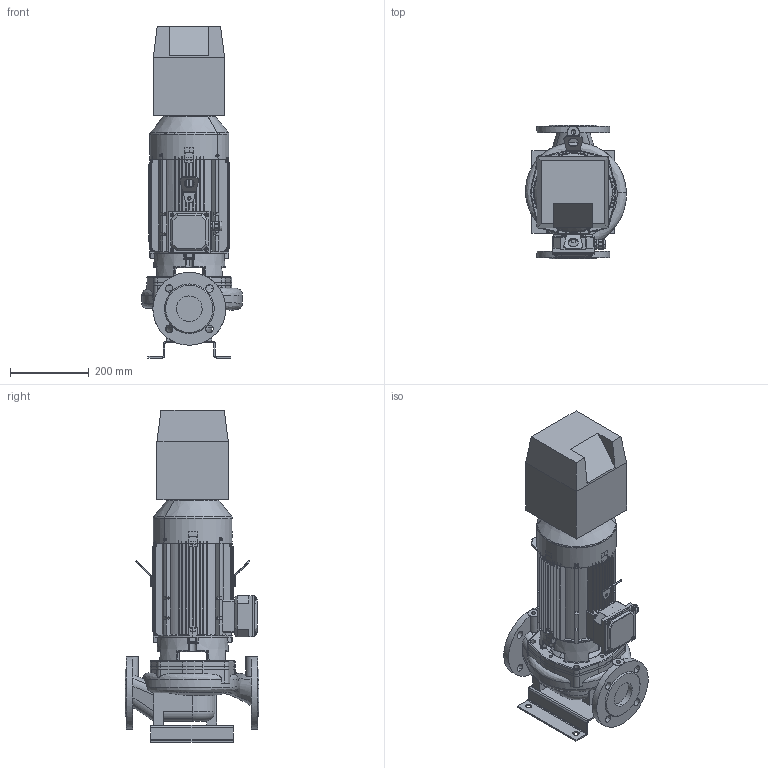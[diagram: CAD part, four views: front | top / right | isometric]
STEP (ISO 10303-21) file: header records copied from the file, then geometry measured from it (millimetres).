
FILE_DESCRIPTION(('STEP AP214'),'1');
FILE_NAME('export.stp','2018-08-08T13:30:54',(' '),(' '),'Spatial InterOp 3D',' ',' ');
FILE_SCHEMA(('AUTOMOTIVE_DESIGN { 1 0 10303 214 1 1 1 1 }'));
Length unit declared in the file: millimetre
Products named in the file (23): W_L65A4770_withou; V_TLL65AB80A1102; V_PPL65AB; V_JALKA35973; W_L65A4NC300KP; 160027; 160005; V_MKP100-2_F19; 160141; 160137; 160138; 160139; 160140; Koura_Ale_M5; Plug_Blind_M20; Sealing_Plug_M20; DIN_7985-M5X8; DIN_7985-M5X12; 160060___; 160059___; 160136; 160134; NC_Size1
Assembly tree (26 placements, depth 4):
  W_L65A4NC300KP
    W_L65A4770_withou
      V_TLL65AB80A1102
      V_PPL65AB
      V_JALKA35973
    V_MKP100-2_F19
      160027
        160005
      160141
        160137
        160138
        160139
        160140
        Koura_Ale_M5
        Plug_Blind_M20
        Sealing_Plug_M20
        DIN_7985-M5X8
        DIN_7985-M5X12  x4
      160060___
      160059___
      160136
      160134  x2
    NC_Size1
Bounding box: 256.45 x 340 x 843 mm (x, y, z)
Volume: 14225487.1 mm3; surface area: 1908608.1 mm2
Topology: 22 solids, 23 shells, 2528 faces, 6763 edges, 4289 vertices
Faces by surface type: plane 1095, cylinder 786, bspline 246, torus 239, cone 147, sphere 15
Entity records: 97230 total; most frequent: CARTESIAN_POINT 33351, ORIENTED_EDGE 12990, DIRECTION 11933, EDGE_CURVE 6497, AXIS2_PLACEMENT_3D 4442, VERTEX_POINT 4145, LINE 3049, VECTOR 3049
